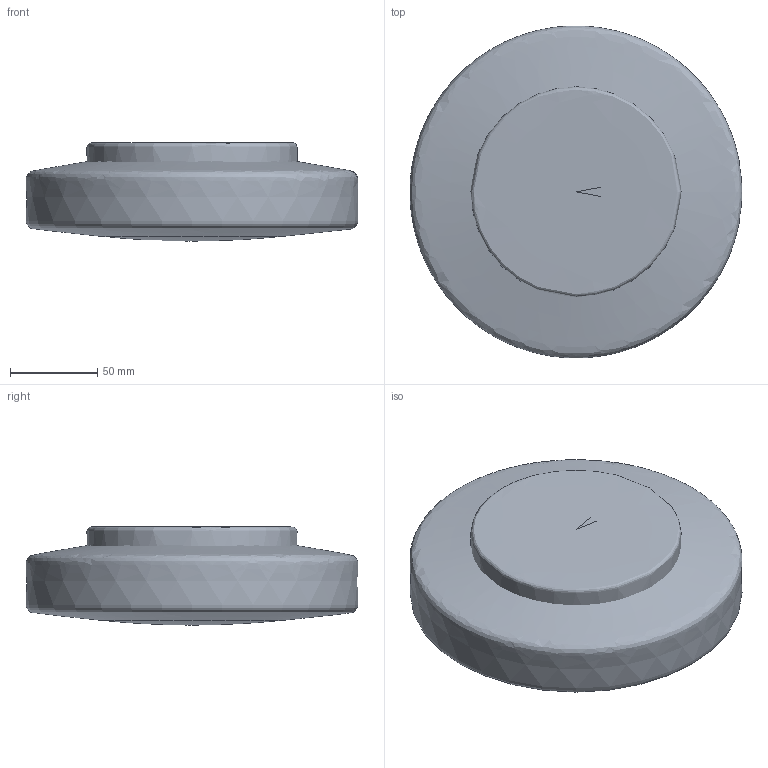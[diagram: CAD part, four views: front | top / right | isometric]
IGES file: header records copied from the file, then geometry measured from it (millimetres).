
Global section: file name: C:\Users\EQUIPO\Desktop\COLECCIONES ACB MODELADAS 3D OK\MOON\moon-969-19 (IGES).igs; native system: Rhinoceros ( Oct  8 2013 ); preprocessor: Trout Lake IGES 012 Oct  8 2013; date: 190207.111334; units: millimetre
Bounding box: 190 x 190 x 56.12 mm (x, y, z)
Surface area: 84747.7 mm2 (no closed solid volume)
Topology: 0 solids, 0 shells, 3 faces, 21 edges, 22 vertices
Faces by surface type: bspline 3
